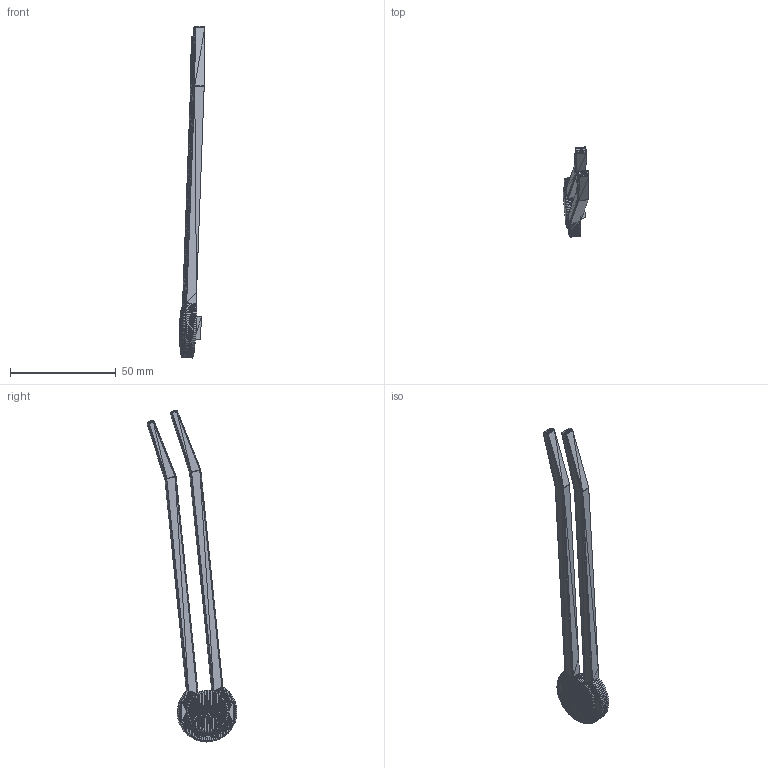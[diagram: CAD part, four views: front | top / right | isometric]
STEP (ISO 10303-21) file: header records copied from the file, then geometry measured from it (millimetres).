
FILE_DESCRIPTION((''),'2;1');
FILE_NAME('Outer Prong', '2025-03-27T07:33:40', (''), (''), 'ImageToStl.com STEP Converter','', '');
FILE_SCHEMA(('AUTOMOTIVE_DESIGN_CC2'));
Length unit declared in the file: metre
Products named in the file (1): product0
Bounding box: 12.15 x 42.48 x 157.05 mm (x, y, z)
Surface area: 6747.6 mm2 (no closed solid volume)
Topology: 0 solids, 9308 shells, 9308 faces, 27924 edges, 4656 vertices
Faces by surface type: plane 9308
Entity records: 223431 total; most frequent: DIRECTION 46542, ORIENTED_EDGE 27924, EDGE_CURVE 27924, LINE 27924, VECTOR 27924, AXIS2_PLACEMENT_3D 9309, STYLED_ITEM 9309, FACE_SURFACE 9308
